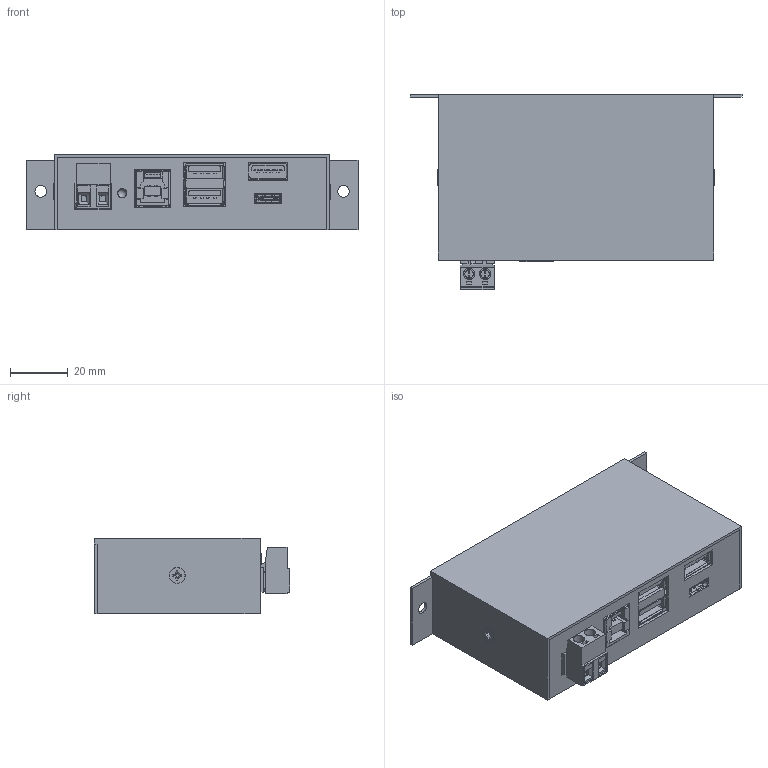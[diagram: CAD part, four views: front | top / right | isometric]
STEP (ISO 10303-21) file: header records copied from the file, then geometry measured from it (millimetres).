
FILE_DESCRIPTION(('FreeCAD Model'),'2;1');
FILE_NAME('Y:/Technische Zeichnungen/EX-1194HMS/EX-1194HMS_3D.step', '2017-10-25T12:05:55',('Author'),(''), 'Open CASCADE STEP processor 6.8','FreeCAD','Unknown');
FILE_SCHEMA(('AUTOMOTIVE_DESIGN_CC2 { 1 2 10303 214 -1 1 5 4 }'));
Products named in the file (1): EX-1194HMS_3D
Bounding box: 114.6 x 67.4 x 26 mm (x, y, z)
Volume: 38136.3 mm3; surface area: 56638.1 mm2
Topology: 1 solids, 5 shells, 2590 faces, 7602 edges, 5032 vertices
Faces by surface type: plane 1936, cylinder 520, cone 77, torus 48, sphere 9
Full cylindrical faces by diameter (mm): 0.55 x2, 2.4 x10, 3.12 x2, 3.2 x1, 3.4 x3, 4 x4, 5.3 x4
Entity records: 278522 total; most frequent: CARTESIAN_POINT 117995, DIRECTION 23869, LINE 15214, VECTOR 15214, ORIENTED_EDGE 15186, PCURVE 15184, DEFINITIONAL_REPRESENTATION 15184, EDGE_CURVE 7592
